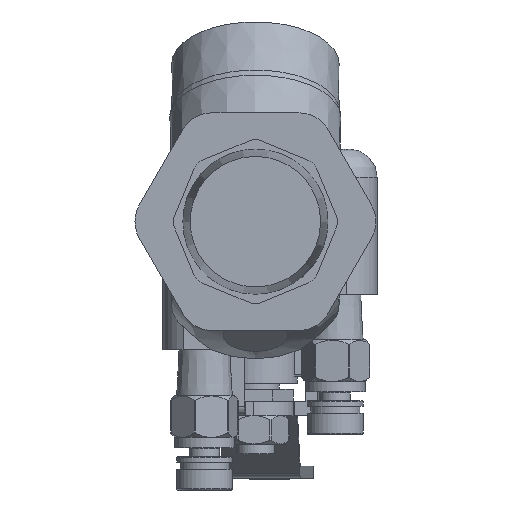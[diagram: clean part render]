
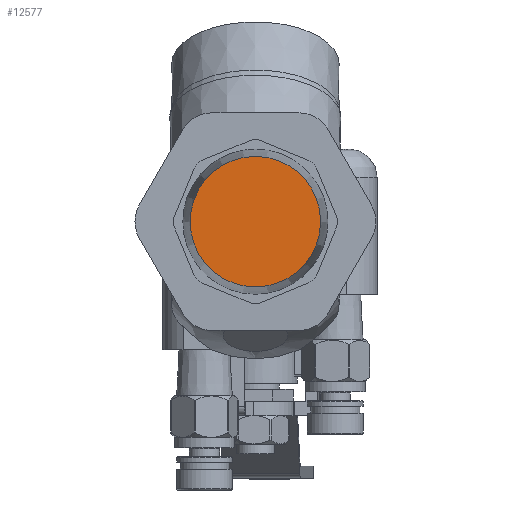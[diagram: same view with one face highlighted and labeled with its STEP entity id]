
A CAD part, front view. The second image highlights one B-rep face of the part: STEP entity #12577.
In plain terms, the highlighted planar face has unit normal (0, -1, 0).
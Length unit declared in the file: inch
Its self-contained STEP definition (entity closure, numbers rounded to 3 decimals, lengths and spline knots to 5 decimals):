
#1044=PLANE('',#13465);
#3568=FACE_OUTER_BOUND('',#4273,.T.);
#4273=EDGE_LOOP('',(#9587));
#4883=CIRCLE('',#13464,0.58449);
#5468=VERTEX_POINT('',#20064);
#6950=EDGE_CURVE('',#5468,#5468,#4883,.T.);
#9587=ORIENTED_EDGE('',*,*,#6950,.F.);
#12577=ADVANCED_FACE('',(#3568),#1044,.T.);
#13464=AXIS2_PLACEMENT_3D('',#20065,#15094,#15095);
#13465=AXIS2_PLACEMENT_3D('',#20067,#15097,#15098);
#15094=DIRECTION('center_axis',(0.,1.,0.));
#15095=DIRECTION('ref_axis',(1.,0.,0.));
#15097=DIRECTION('center_axis',(0.,-1.,0.));
#15098=DIRECTION('ref_axis',(0.,0.,
-1.));
#20064=CARTESIAN_POINT('',(-3.4507,-6.17769,-3.42069));
#20065=CARTESIAN_POINT('Origin',(-2.86621,-6.17769,-3.42069));
#20067=CARTESIAN_POINT('Origin',(-2.86621,-6.17769,-3.42069));
